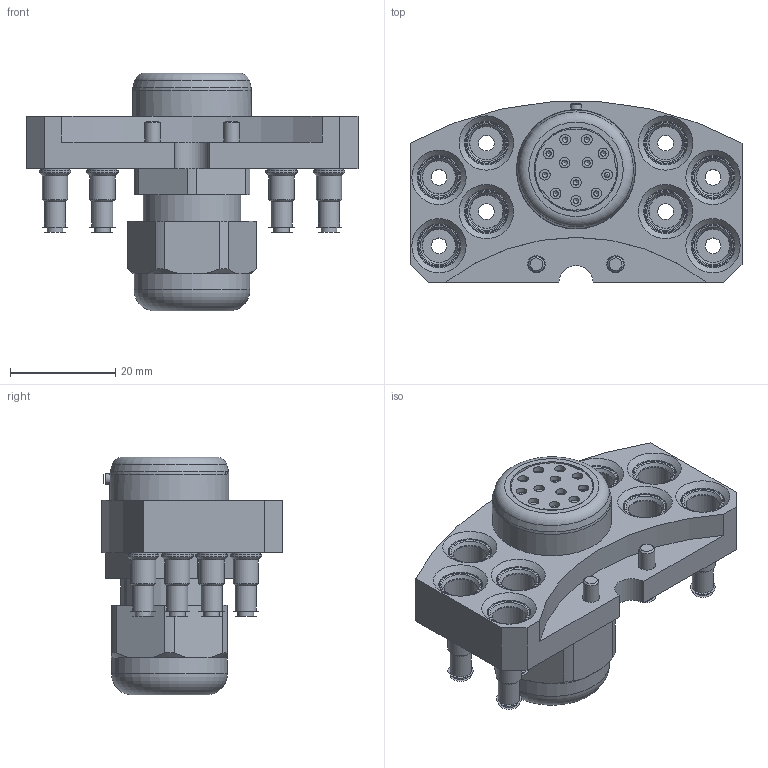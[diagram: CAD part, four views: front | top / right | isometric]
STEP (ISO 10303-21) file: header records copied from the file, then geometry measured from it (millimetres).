
FILE_DESCRIPTION(/* description */ (''),/* implementation_level */ '2;1');
FILE_NAME(/* name */ 'T:\Engineering\Homepage\Homepage 2020\4 3D Step-Daten - Homepage\5 MEK\G-MEK080-U-8Pk4-1E12.stp',/* time_stamp */ '2023-01-06T12:03:30+01:00',/* author */ ('ysplieth'),/* organization */ (''),/* preprocessor_version */ 'ST-DEVELOPER v17',/* originating_system */ 'Autodesk Inventor 2018',/* authorisation */ '');
FILE_SCHEMA (('AUTOMOTIVE_DESIGN { 1 0 10303 214 3 1 1 }'));
Length unit declared in the file: millimetre
Products named in the file (1): Bauteil8
Bounding box: 63 x 34.23 x 45.1 mm (x, y, z)
Volume: 25824.5 mm3; surface area: 18868.7 mm2
Topology: 1 solids, 2 shells, 506 faces, 1396 edges, 943 vertices
Faces by surface type: cylinder 195, plane 181, cone 89, torus 41
Full cylindrical faces by diameter (mm): 1 x12, 1.6 x12, 2 x17, 2.013 x2, 3 x10, 3.3 x2, 4 x8, 4.8 x8, 5.5 x10, 5.9 x8, 6 x10, 6.3 x8, 8 x8, 8.3 x8, 10 x1, 15.9 x1, 17.1 x1, 18.1 x1, 18.5 x1, 22 x1, 22.6 x1
Entity records: 18388 total; most frequent: CARTESIAN_POINT 4359, DIRECTION 3023, ORIENTED_EDGE 2750, EDGE_CURVE 1375, AXIS2_PLACEMENT_3D 1252, VERTEX_POINT 943, CIRCLE 745, EDGE_LOOP 627
